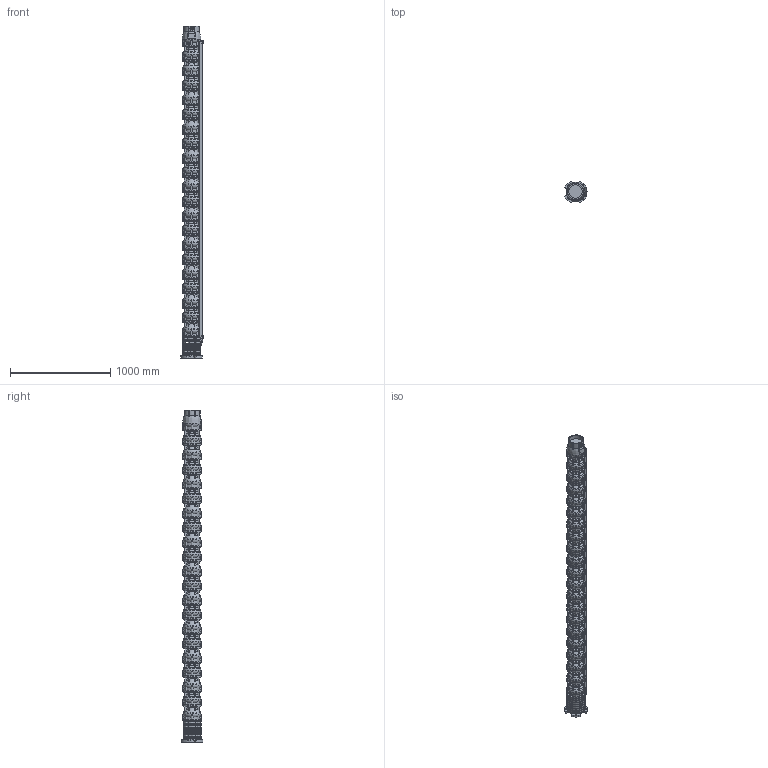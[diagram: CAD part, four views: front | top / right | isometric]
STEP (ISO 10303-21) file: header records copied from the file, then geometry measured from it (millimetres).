
FILE_DESCRIPTION(/* description */ ('Unknown'),/* implementation_level */ '2;1');
FILE_NAME(/* name */ 'VSI134-20_WR_M10-50_DME',/* time_stamp */ '2023-09-14T14:45:09+02:00',/* author */ ('Unknown'),/* organization */ ('Unknown'),/* preprocessor_version */ 'ST-DEVELOPER v18.102',/* originating_system */ 'Solid Edge',/* authorisation */ 'Unknown');
FILE_SCHEMA (('CONFIG_CONTROL_DESIGN','AP203_CONFIGURATION_CONTROLLED_3D_DESIGN_OF_MECHANICAL_PARTS_AND_ASSEMBLIES_MIM_LF { 1 0 10303 203 3 1 4 }','AUTOMOTIVE_DESIGN {1 0 10303 214 3 1 1}'));
Products named in the file (12): VSI134-20_WR_M10-50_DME; VSI134_testata; VSI134_diffusore; VSI134_supporto_8×8; VSI134_adattatore_8×10; VSI134_filtro_A; VSI134_filtro_B; VSI134_terminale_top_copricavo_medio; VSI134_terminale_bottom_copricavo_medio; MID 134-20; M5X8_UNI7687; VSI134_giunto_8×10
Assembly tree (39 placements, depth 2):
  VSI134-20_WR_M10-50_DME
    VSI134_testata
    VSI134_diffusore  x20
    VSI134_supporto_8×8
    VSI134_adattatore_8×10
    VSI134_filtro_A
    VSI134_filtro_B
    VSI134_terminale_top_copricavo_medio
    VSI134_terminale_bottom_copricavo_medio
    MID 134-20
    M5X8_UNI7687  x10
    VSI134_giunto_8×10
Bounding box: 221.78 x 213.16 x 3318 mm (x, y, z)
Volume: 62356614.1 mm3; surface area: 4704300.8 mm2
Topology: 78 solids, 80 shells, 5775 faces, 16265 edges, 10870 vertices
Faces by surface type: plane 4029, torus 914, cylinder 716, cone 73, bspline 31, sphere 12
Full cylindrical faces by diameter (mm): 2.4 x2, 3 x2, 4.2 x16, 5 x10, 5.5 x8, 14 x4, 16 x4, 17.5 x4, 26 x1, 30 x4, 44 x1, 65 x1, 69 x1, 74 x1, 84 x1, 98 x1, 127 x2, 135.472 x1, 157 x1, 182 x21
Entity records: 85395 total; most frequent: CARTESIAN_POINT 18304, ORIENTED_EDGE 13946, DIRECTION 13472, EDGE_CURVE 6973, VERTEX_POINT 4707, AXIS2_PLACEMENT_3D 4614, LINE 4244, VECTOR 4244
